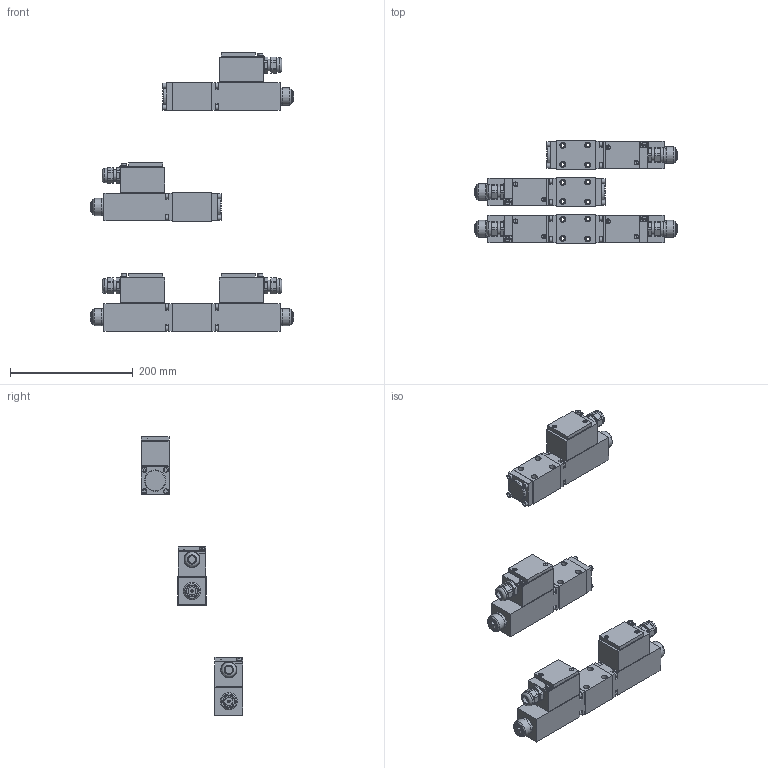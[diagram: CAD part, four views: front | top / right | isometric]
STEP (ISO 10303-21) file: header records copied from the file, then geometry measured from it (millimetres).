
FILE_DESCRIPTION(('Bauteilbeschreibung','HiCAD-Model','HiCAD-STEP-TRANSLATION','Bauteilbeschreibung'),'2;1');
FILE_NAME('K:/STEP_DXF/AEXI4_6_-100_T6.STP','2006-07-24T15:35:02+00:00',('Konstrukteur'),('Konstrukteur Firma GmbH'),'HiCAD3 V1210 STEP 1.6.2005','HiCAD3 V1210','confidential');
FILE_SCHEMA(('AUTOMOTIVE_DESIGN { 1 2 10303 214 0 1 1 1 }'));
Length unit declared in the file: millimetre
Products named in the file (56): AEXI4_6__100_T6; AEXI4D6__100_T6; DC3A3537; A0093542; A00935420; HB4_5; IN6KTM5; IN6KTM50; IN6KTM51; IN6KTM52; IN6KTM53; A00935421; A00935422; HB405; IN6KTM54; IN6KTM55; IN6KTM56; IN6KTM57; IN6KTM58; AB294FE8; AEXI4Z6_A_100_T6; A67F8DA4; A00935423; A00935424; HB4050; IN6KTM59; IN6KTM510; IN6KTM511; IN6KTM512; IN6KTM513; AB294FE80; F77E93F1; F77E93F10; IN6KTM514; IN6KTM515; IN6KTM516; IN6KTM517; IN6KTM518; AEXI4Z6_B_100_T6; AF8CFBC1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
Assembly tree (55 placements, depth 6):
  AEXI4_6__100_T6
    AEXI4D6__100_T6
      DC3A3537
        A0093542
        A00935420
          HB4_5
          IN6KTM5
            IN6KTM50
            IN6KTM51
            IN6KTM52
            IN6KTM53
        A00935421
        A00935422
          HB405
          IN6KTM54
            IN6KTM55
            IN6KTM56
            IN6KTM57
            IN6KTM58
        AB294FE8
    AEXI4Z6_A_100_T6
      A67F8DA4
        A00935423
        A00935424
          HB4050
          IN6KTM59
            IN6KTM510
            IN6KTM511
            IN6KTM512
            IN6KTM513
        AB294FE80
        F77E93F1
        F77E93F10
          IN6KTM514
            IN6KTM515
            IN6KTM516
            IN6KTM517
            IN6KTM518
    AEXI4Z6_B_100_T6
      AF8CFBC1
        A00935425
        A00935426
          HB4051
          IN6KTM519
            IN6KTM520
            IN6KTM521
            IN6KTM522
            IN6KTM523
        AB294FE81
        F77E93F11
        F77E93F12
          IN6KTM524
            IN6KTM525
            IN6KTM526
            IN6KTM527
            IN6KTM528
Bounding box: 332.2 x 166 x 454.8 mm (x, y, z)
Volume: 2026446.8 mm3; surface area: 262494.7 mm2
Topology: 37 solids, 41 shells, 1208 faces, 2920 edges, 1948 vertices
Faces by surface type: plane 784, cylinder 294, cone 102, torus 28
Full cylindrical faces by diameter (mm): 2.5 x4, 4.2 x4, 5 x28, 5.4 x4, 5.5 x36, 5.7 x4, 6.8 x4, 7 x8, 7.5 x8, 8 x8, 8.5 x24, 8.8 x4, 9.5 x12, 12.5 x16, 13.5 x4, 19 x4, 24 x4, 26 x4, 27.8 x4, 28 x4, 35 x2
Entity records: 61927 total; most frequent: CARTESIAN_POINT 11222, DIRECTION 5770, ORIENTED_EDGE 5076, COLOUR_RGB 3783, PRESENTATION_STYLE_ASSIGNMENT 3783, OVER_RIDING_STYLED_ITEM 3746, CURVE_STYLE 2538, DRAUGHTING_PRE_DEFINED_CURVE_FONT 2538
